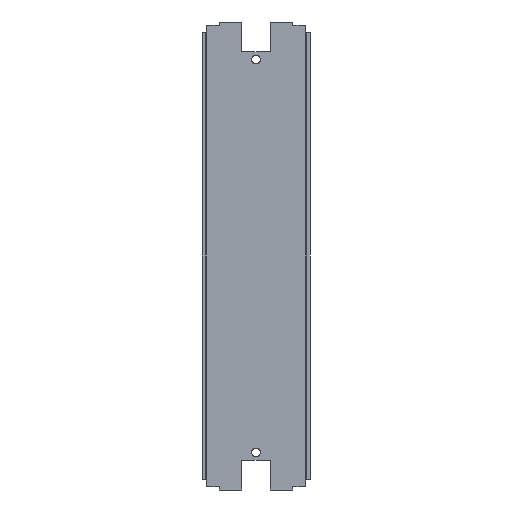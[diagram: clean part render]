
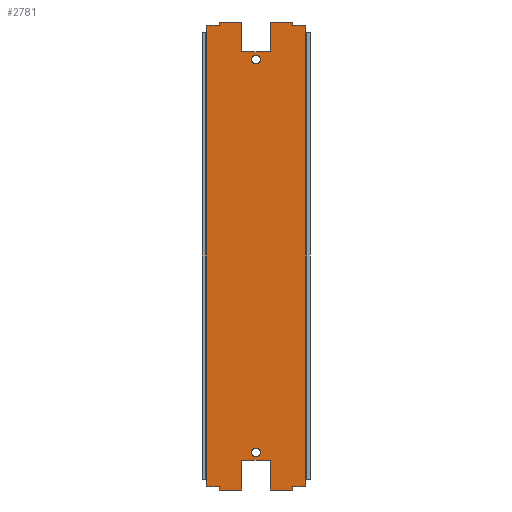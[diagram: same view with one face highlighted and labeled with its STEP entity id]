
A CAD part, front view. The second image highlights one B-rep face of the part: STEP entity #2781.
In plain terms, the highlighted planar face has unit normal (0, -1, 0).
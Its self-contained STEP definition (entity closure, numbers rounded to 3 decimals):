
#306=CARTESIAN_POINT(' ',(0.,-2.,128.25));
#307=VERTEX_POINT(' ',#306);
#321=CARTESIAN_POINT(' ',(0.,-2.,125.5));
#326=DIRECTION(' ',(0.,-1.,0.));
#331=DIRECTION(' ',(0.,0.,1.));
#336=AXIS2_PLACEMENT_3D(' ',#321,#326,#331);
#341=CIRCLE('',#336,2.75);
#346=CARTESIAN_POINT(' ',(0.,-2.,122.75));
#347=VERTEX_POINT(' ',#346);
#351=EDGE_CURVE(' ',#307,#347,#341,.T.);
#1606=CARTESIAN_POINT(' ',(0.,-2.,125.5));
#1611=DIRECTION(' ',(-0.,-1.,0.));
#1616=DIRECTION(' ',(0.,0.,-1.));
#1621=AXIS2_PLACEMENT_3D(' ',#1606,#1611,#1616);
#1626=CIRCLE('',#1621,2.75);
#1631=EDGE_CURVE(' ',#347,#307,#1626,.T.);
#1656=DIRECTION(' ',(-0.,-1.,-0.));
#1661=CARTESIAN_POINT(' ',(-31.9,-2.,-149.5));
#1666=DIRECTION(' ',(1.,0.,-0.));
#1671=AXIS2_PLACEMENT_3D(' ',#1661,#1656,#1666);
#1676=PLANE('NONE',#1671);
#1681=CARTESIAN_POINT(' ',(9.,-2.,130.5));
#1686=DIRECTION(' ',(0.,0.,1.));
#1691=VECTOR(' ',#1686,1.);
#1696=LINE('',#1681,#1691);
#1701=CARTESIAN_POINT(' ',(9.,-2.,130.5));
#1702=VERTEX_POINT(' ',#1701);
#1706=CARTESIAN_POINT(' ',(9.,-2.,149.5));
#1707=VERTEX_POINT(' ',#1706);
#1711=EDGE_CURVE(' ',#1702,#1707,#1696,.T.);
#1716=ORIENTED_EDGE(' ',*,*,#1711,.F.);
#1721=CARTESIAN_POINT(' ',(-9.,-2.,130.5));
#1726=DIRECTION(' ',(1.,0.,0.));
#1731=VECTOR(' ',#1726,1.);
#1736=LINE('',#1721,#1731);
#1741=CARTESIAN_POINT(' ',(-9.,-2.,130.5));
#1742=VERTEX_POINT(' ',#1741);
#1746=EDGE_CURVE(' ',#1742,#1702,#1736,.T.);
#1751=ORIENTED_EDGE(' ',*,*,#1746,.F.);
#1756=CARTESIAN_POINT(' ',(-9.,-2.,149.5));
#1761=DIRECTION(' ',(0.,0.,-1.));
#1766=VECTOR(' ',#1761,1.);
#1771=LINE('',#1756,#1766);
#1776=CARTESIAN_POINT(' ',(-9.,-2.,149.5));
#1777=VERTEX_POINT(' ',#1776);
#1781=EDGE_CURVE(' ',#1777,#1742,#1771,.T.);
#1786=ORIENTED_EDGE(' ',*,*,#1781,.F.);
#1791=CARTESIAN_POINT(' ',(-23.5,-2.,149.5));
#1796=DIRECTION(' ',(1.,0.,0.));
#1801=VECTOR(' ',#1796,1.);
#1806=LINE('',#1791,#1801);
#1811=CARTESIAN_POINT(' ',(-23.5,-2.,149.5));
#1812=VERTEX_POINT(' ',#1811);
#1816=EDGE_CURVE(' ',#1812,#1777,#1806,.T.);
#1821=ORIENTED_EDGE(' ',*,*,#1816,.F.);
#1826=CARTESIAN_POINT(' ',(-23.5,-2.,149.5));
#1831=DIRECTION(' ',(0.,0.,-1.));
#1836=VECTOR(' ',#1831,1.);
#1841=LINE('',#1826,#1836);
#1846=CARTESIAN_POINT(' ',(-23.5,-2.,147.5));
#1847=VERTEX_POINT(' ',#1846);
#1851=EDGE_CURVE(' ',#1812,#1847,#1841,.T.);
#1856=ORIENTED_EDGE(' ',*,*,#1851,.T.);
#1861=CARTESIAN_POINT(' ',(-23.5,-2.,147.5));
#1866=DIRECTION(' ',(-1.,0.,0.));
#1871=VECTOR(' ',#1866,1.);
#1876=LINE('',#1861,#1871);
#1881=CARTESIAN_POINT(' ',(-31.5,-2.,147.5));
#1882=VERTEX_POINT(' ',#1881);
#1886=EDGE_CURVE(' ',#1847,#1882,#1876,.T.);
#1891=ORIENTED_EDGE(' ',*,*,#1886,.T.);
#1896=CARTESIAN_POINT(' ',(-31.5,-2.,147.5));
#1901=DIRECTION(' ',(0.,0.,-1.));
#1906=VECTOR(' ',#1901,1.);
#1911=LINE('',#1896,#1906);
#1916=CARTESIAN_POINT(' ',(-31.5,-2.,142.5));
#1917=VERTEX_POINT(' ',#1916);
#1921=EDGE_CURVE(' ',#1882,#1917,#1911,.T.);
#1926=ORIENTED_EDGE(' ',*,*,#1921,.T.);
#1931=CARTESIAN_POINT(' ',(-31.5,-2.,142.5));
#1936=DIRECTION(' ',(-1.,0.,0.));
#1941=VECTOR(' ',#1936,1.);
#1946=LINE('',#1931,#1941);
#1951=CARTESIAN_POINT(' ',(-31.9,-2.,142.5));
#1952=VERTEX_POINT(' ',#1951);
#1956=EDGE_CURVE(' ',#1917,#1952,#1946,.T.);
#1961=ORIENTED_EDGE(' ',*,*,#1956,.T.);
#1966=CARTESIAN_POINT(' ',(-31.9,-2.,-142.5));
#1971=DIRECTION(' ',(0.,0.,1.));
#1976=VECTOR(' ',#1971,1.);
#1981=LINE('',#1966,#1976);
#1986=CARTESIAN_POINT(' ',(-31.9,-2.,-142.5));
#1987=VERTEX_POINT(' ',#1986);
#1991=EDGE_CURVE(' ',#1987,#1952,#1981,.T.);
#1996=ORIENTED_EDGE(' ',*,*,#1991,.F.);
#2001=CARTESIAN_POINT(' ',(-31.9,-2.,-142.5));
#2006=DIRECTION(' ',(1.,0.,0.));
#2011=VECTOR(' ',#2006,1.);
#2016=LINE('',#2001,#2011);
#2021=CARTESIAN_POINT(' ',(-31.5,-2.,-142.5));
#2022=VERTEX_POINT(' ',#2021);
#2026=EDGE_CURVE(' ',#1987,#2022,#2016,.T.);
#2031=ORIENTED_EDGE(' ',*,*,#2026,.T.);
#2036=CARTESIAN_POINT(' ',(-31.5,-2.,-142.5));
#2041=DIRECTION(' ',(0.,0.,-1.));
#2046=VECTOR(' ',#2041,1.);
#2051=LINE('',#2036,#2046);
#2056=CARTESIAN_POINT(' ',(-31.5,-2.,-147.5));
#2057=VERTEX_POINT(' ',#2056);
#2061=EDGE_CURVE(' ',#2022,#2057,#2051,.T.);
#2066=ORIENTED_EDGE(' ',*,*,#2061,.T.);
#2071=CARTESIAN_POINT(' ',(-31.5,-2.,-147.5));
#2076=DIRECTION(' ',(1.,0.,0.));
#2081=VECTOR(' ',#2076,1.);
#2086=LINE('',#2071,#2081);
#2091=CARTESIAN_POINT(' ',(-23.5,-2.,-147.5));
#2092=VERTEX_POINT(' ',#2091);
#2096=EDGE_CURVE(' ',#2057,#2092,#2086,.T.);
#2101=ORIENTED_EDGE(' ',*,*,#2096,.T.);
#2106=CARTESIAN_POINT(' ',(-23.5,-2.,-147.5));
#2111=DIRECTION(' ',(0.,0.,-1.));
#2116=VECTOR(' ',#2111,1.);
#2121=LINE('',#2106,#2116);
#2126=CARTESIAN_POINT(' ',(-23.5,-2.,-149.5));
#2127=VERTEX_POINT(' ',#2126);
#2131=EDGE_CURVE(' ',#2092,#2127,#2121,.T.);
#2136=ORIENTED_EDGE(' ',*,*,#2131,.T.);
#2141=CARTESIAN_POINT(' ',(-23.5,-2.,-149.5));
#2146=DIRECTION(' ',(1.,0.,0.));
#2151=VECTOR(' ',#2146,1.);
#2156=LINE('',#2141,#2151);
#2161=CARTESIAN_POINT(' ',(-9.,-2.,-149.5));
#2162=VERTEX_POINT(' ',#2161);
#2166=EDGE_CURVE(' ',#2127,#2162,#2156,.T.);
#2171=ORIENTED_EDGE(' ',*,*,#2166,.T.);
#2176=CARTESIAN_POINT(' ',(-9.,-2.,-130.5));
#2181=DIRECTION(' ',(0.,0.,-1.));
#2186=VECTOR(' ',#2181,1.);
#2191=LINE('',#2176,#2186);
#2196=CARTESIAN_POINT(' ',(-9.,-2.,-130.5));
#2197=VERTEX_POINT(' ',#2196);
#2201=EDGE_CURVE(' ',#2197,#2162,#2191,.T.);
#2206=ORIENTED_EDGE(' ',*,*,#2201,.F.);
#2211=CARTESIAN_POINT(' ',(9.,-2.,-130.5));
#2216=DIRECTION(' ',(-1.,0.,0.));
#2221=VECTOR(' ',#2216,1.);
#2226=LINE('',#2211,#2221);
#2231=CARTESIAN_POINT(' ',(9.,-2.,-130.5));
#2232=VERTEX_POINT(' ',#2231);
#2236=EDGE_CURVE(' ',#2232,#2197,#2226,.T.);
#2241=ORIENTED_EDGE(' ',*,*,#2236,.F.);
#2246=CARTESIAN_POINT(' ',(9.,-2.,-149.5));
#2251=DIRECTION(' ',(0.,0.,1.));
#2256=VECTOR(' ',#2251,1.);
#2261=LINE('',#2246,#2256);
#2266=CARTESIAN_POINT(' ',(9.,-2.,-149.5));
#2267=VERTEX_POINT(' ',#2266);
#2271=EDGE_CURVE(' ',#2267,#2232,#2261,.T.);
#2276=ORIENTED_EDGE(' ',*,*,#2271,.F.);
#2281=CARTESIAN_POINT(' ',(9.,-2.,-149.5));
#2286=DIRECTION(' ',(1.,0.,0.));
#2291=VECTOR(' ',#2286,1.);
#2296=LINE('',#2281,#2291);
#2301=CARTESIAN_POINT(' ',(23.5,-2.,-149.5));
#2302=VERTEX_POINT(' ',#2301);
#2306=EDGE_CURVE(' ',#2267,#2302,#2296,.T.);
#2311=ORIENTED_EDGE(' ',*,*,#2306,.T.);
#2316=CARTESIAN_POINT(' ',(23.5,-2.,-147.5));
#2321=DIRECTION(' ',(0.,0.,-1.));
#2326=VECTOR(' ',#2321,1.);
#2331=LINE('',#2316,#2326);
#2336=CARTESIAN_POINT(' ',(23.5,-2.,-147.5));
#2337=VERTEX_POINT(' ',#2336);
#2341=EDGE_CURVE(' ',#2337,#2302,#2331,.T.);
#2346=ORIENTED_EDGE(' ',*,*,#2341,.F.);
#2351=CARTESIAN_POINT(' ',(31.5,-2.,-147.5));
#2356=DIRECTION(' ',(-1.,0.,0.));
#2361=VECTOR(' ',#2356,1.);
#2366=LINE('',#2351,#2361);
#2371=CARTESIAN_POINT(' ',(31.5,-2.,-147.5));
#2372=VERTEX_POINT(' ',#2371);
#2376=EDGE_CURVE(' ',#2372,#2337,#2366,.T.);
#2381=ORIENTED_EDGE(' ',*,*,#2376,.F.);
#2386=CARTESIAN_POINT(' ',(31.5,-2.,-142.5));
#2391=DIRECTION(' ',(0.,0.,-1.));
#2396=VECTOR(' ',#2391,1.);
#2401=LINE('',#2386,#2396);
#2406=CARTESIAN_POINT(' ',(31.5,-2.,-142.5));
#2407=VERTEX_POINT(' ',#2406);
#2411=EDGE_CURVE(' ',#2407,#2372,#2401,.T.);
#2416=ORIENTED_EDGE(' ',*,*,#2411,.F.);
#2421=CARTESIAN_POINT(' ',(31.9,-2.,-142.5));
#2426=DIRECTION(' ',(-1.,0.,0.));
#2431=VECTOR(' ',#2426,1.);
#2436=LINE('',#2421,#2431);
#2441=CARTESIAN_POINT(' ',(31.9,-2.,-142.5));
#2442=VERTEX_POINT(' ',#2441);
#2446=EDGE_CURVE(' ',#2442,#2407,#2436,.T.);
#2451=ORIENTED_EDGE(' ',*,*,#2446,.F.);
#2456=CARTESIAN_POINT(' ',(31.9,-2.,142.5));
#2461=DIRECTION(' ',(0.,0.,-1.));
#2466=VECTOR(' ',#2461,1.);
#2471=LINE('',#2456,#2466);
#2476=CARTESIAN_POINT(' ',(31.9,-2.,142.5));
#2477=VERTEX_POINT(' ',#2476);
#2481=EDGE_CURVE(' ',#2477,#2442,#2471,.T.);
#2486=ORIENTED_EDGE(' ',*,*,#2481,.F.);
#2491=CARTESIAN_POINT(' ',(31.5,-2.,142.5));
#2496=DIRECTION(' ',(1.,0.,0.));
#2501=VECTOR(' ',#2496,1.);
#2506=LINE('',#2491,#2501);
#2511=CARTESIAN_POINT(' ',(31.5,-2.,142.5));
#2512=VERTEX_POINT(' ',#2511);
#2516=EDGE_CURVE(' ',#2512,#2477,#2506,.T.);
#2521=ORIENTED_EDGE(' ',*,*,#2516,.F.);
#2526=CARTESIAN_POINT(' ',(31.5,-2.,147.5));
#2531=DIRECTION(' ',(0.,0.,-1.));
#2536=VECTOR(' ',#2531,1.);
#2541=LINE('',#2526,#2536);
#2546=CARTESIAN_POINT(' ',(31.5,-2.,147.5));
#2547=VERTEX_POINT(' ',#2546);
#2551=EDGE_CURVE(' ',#2547,#2512,#2541,.T.);
#2556=ORIENTED_EDGE(' ',*,*,#2551,.F.);
#2561=CARTESIAN_POINT(' ',(23.5,-2.,147.5));
#2566=DIRECTION(' ',(1.,0.,0.));
#2571=VECTOR(' ',#2566,1.);
#2576=LINE('',#2561,#2571);
#2581=CARTESIAN_POINT(' ',(23.5,-2.,147.5));
#2582=VERTEX_POINT(' ',#2581);
#2586=EDGE_CURVE(' ',#2582,#2547,#2576,.T.);
#2591=ORIENTED_EDGE(' ',*,*,#2586,.F.);
#2596=CARTESIAN_POINT(' ',(23.5,-2.,149.5));
#2601=DIRECTION(' ',(0.,0.,-1.));
#2606=VECTOR(' ',#2601,1.);
#2611=LINE('',#2596,#2606);
#2616=CARTESIAN_POINT(' ',(23.5,-2.,149.5));
#2617=VERTEX_POINT(' ',#2616);
#2621=EDGE_CURVE(' ',#2617,#2582,#2611,.T.);
#2626=ORIENTED_EDGE(' ',*,*,#2621,.F.);
#2631=CARTESIAN_POINT(' ',(9.,-2.,149.5));
#2636=DIRECTION(' ',(1.,0.,0.));
#2641=VECTOR(' ',#2636,1.);
#2646=LINE('',#2631,#2641);
#2651=EDGE_CURVE(' ',#1707,#2617,#2646,.T.);
#2656=ORIENTED_EDGE(' ',*,*,#2651,.F.);
#2661=EDGE_LOOP(' ',(#1716,#1751,#1786,#1821,#1856,#1891,#1926,#1961,#1996,#2031,#2066,#2101,#2136,#2171,#2206,#2241,#2276,#2311,#2346,#2381,#2416,#2451,#2486,#2521,#2556,#2591,#2626,#2656));
#2666=FACE_OUTER_BOUND(' ',#2661,.T.);
#2671=ORIENTED_EDGE(' ',*,*,#1631,.F.);
#2676=ORIENTED_EDGE(' ',*,*,#351,.F.);
#2681=EDGE_LOOP(' ',(#2671,#2676));
#2686=FACE_BOUND(' ',#2681,.T.);
#2691=CARTESIAN_POINT(' ',(0.,-2.,-125.5));
#2696=DIRECTION(' ',(-0.,-1.,0.));
#2701=DIRECTION(' ',(0.,0.,-1.));
#2706=AXIS2_PLACEMENT_3D(' ',#2691,#2696,#2701);
#2711=CIRCLE('',#2706,2.75);
#2716=CARTESIAN_POINT(' ',(0.,-2.,-128.25));
#2717=VERTEX_POINT(' ',#2716);
#2721=CARTESIAN_POINT(' ',(0.,-2.,-122.75));
#2722=VERTEX_POINT(' ',#2721);
#2726=EDGE_CURVE(' ',#2717,#2722,#2711,.T.);
#2731=ORIENTED_EDGE(' ',*,*,#2726,.F.);
#2736=CARTESIAN_POINT(' ',(0.,-2.,-125.5));
#2741=DIRECTION(' ',(0.,-1.,0.));
#2746=DIRECTION(' ',(0.,0.,1.));
#2751=AXIS2_PLACEMENT_3D(' ',#2736,#2741,#2746);
#2756=CIRCLE('',#2751,2.75);
#2761=EDGE_CURVE(' ',#2722,#2717,#2756,.T.);
#2766=ORIENTED_EDGE(' ',*,*,#2761,.F.);
#2771=EDGE_LOOP(' ',(#2731,#2766));
#2776=FACE_BOUND(' ',#2771,.T.);
#2781=ADVANCED_FACE('NONE',(#2666,#2686,#2776),#1676,.T.);
